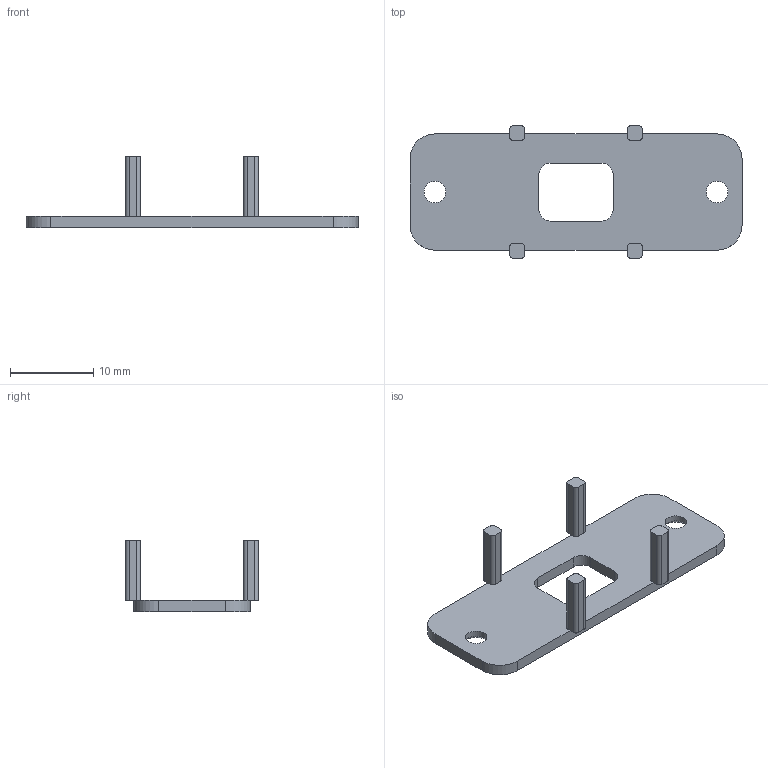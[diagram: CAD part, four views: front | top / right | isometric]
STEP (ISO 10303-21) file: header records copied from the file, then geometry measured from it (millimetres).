
FILE_DESCRIPTION(('Open CASCADE Model'),'2;1');
FILE_NAME('C27_UC1_05_Front_Switch_Clamp','2026-09-09T20:28:14',( 'Author'),('Open CASCADE'),'Open CASCADE STEP processor 7.9', 'build123d','Unknown');
FILE_SCHEMA(('AUTOMOTIVE_DESIGN { 1 0 10303 214 1 1 1 1 }'));
Length unit declared in the file: millimetre
Products named in the file (1): C27_UC1_05_Front_Switch_Clamp
Bounding box: 40 x 16 x 8.65 mm (x, y, z)
Volume: 757.6 mm3; surface area: 1364.1 mm2
Topology: 1 solids, 1 shells, 62 faces, 170 edges, 110 vertices
Faces by surface type: plane 34, cylinder 26, cone 2
Full cylindrical faces by diameter (mm): 2.6 x2
Entity records: 4230 total; most frequent: CARTESIAN_POINT 743, DIRECTION 680, LINE 404, VECTOR 404, ORIENTED_EDGE 340, PCURVE 340, DEFINITIONAL_REPRESENTATION 340, EDGE_CURVE 170
